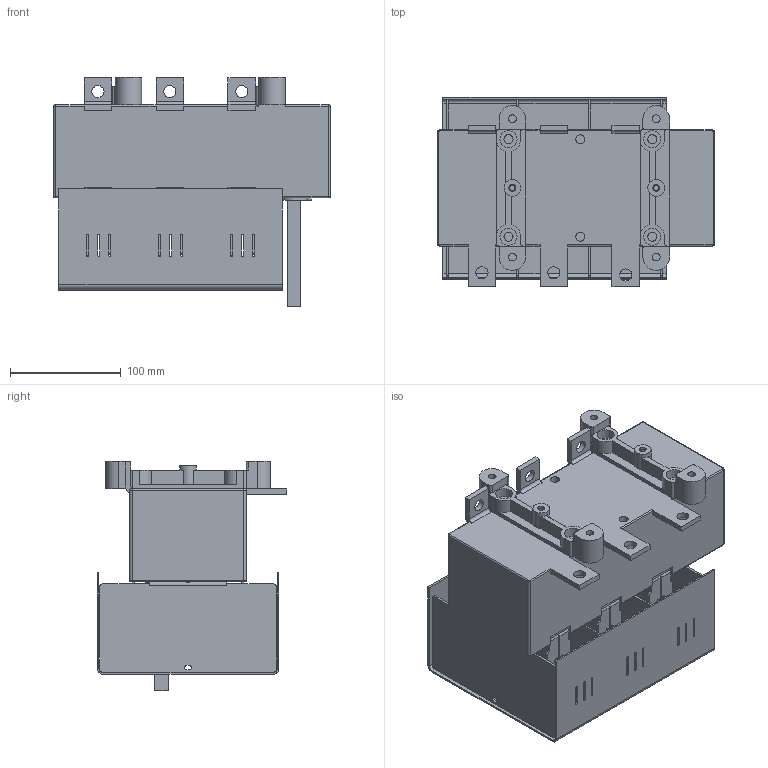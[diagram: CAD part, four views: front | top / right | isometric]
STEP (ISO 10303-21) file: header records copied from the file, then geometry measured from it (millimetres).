
FILE_DESCRIPTION(/* description */ (''),/* implementation_level */ '2;1');
FILE_NAME(/* name */ 'RAB 2 P3 B.stp',/* time_stamp */ '2021-08-19T13:57:21+02:00',/* author */ (''),/* organization */ (''),/* preprocessor_version */ 'ST-DEVELOPER v18.1',/* originating_system */ 'SIEMENS PLM Software NX 1965',/* authorisation */ '');
FILE_SCHEMA (('AUTOMOTIVE_DESIGN { 1 0 10303 214 3 1 1 1 }'));
Length unit declared in the file: millimetre
Products named in the file (1): RAB 2 P3 B_stp
Bounding box: 250 x 171.15 x 207.3 mm (x, y, z)
Volume: 2445230.7 mm3; surface area: 437108 mm2
Topology: 1 solids, 7 shells, 1115 faces, 3041 edges, 1972 vertices
Faces by surface type: plane 727, cylinder 380, torus 5, bspline 3
Full cylindrical faces by diameter (mm): 4.8 x2, 5.2 x18, 6.2 x2, 7 x4, 8.2 x6, 11 x6, 14 x4, 15 x2, 15.5 x4
Entity records: 35156 total; most frequent: CARTESIAN_POINT 6214, DIRECTION 5983, ORIENTED_EDGE 5978, EDGE_CURVE 2989, LINE 2197, VECTOR 2197, VERTEX_POINT 1968, AXIS2_PLACEMENT_3D 1893
